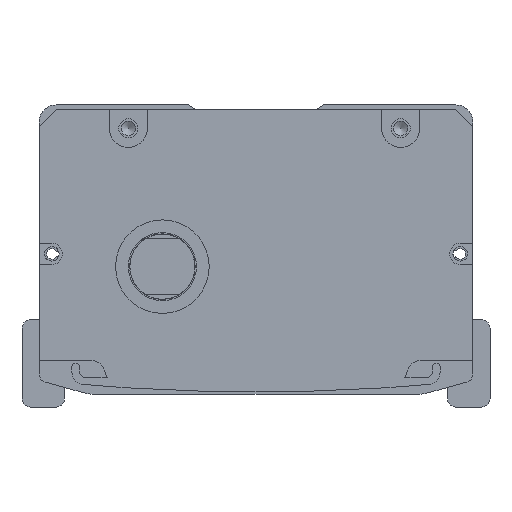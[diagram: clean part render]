
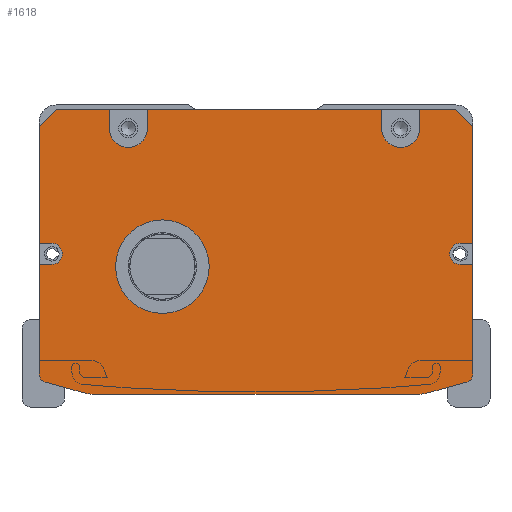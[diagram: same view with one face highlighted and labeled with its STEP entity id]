
A CAD part, front view. The second image highlights one B-rep face of the part: STEP entity #1618.
In plain terms, the highlighted planar face has unit normal (0, -1, 0).
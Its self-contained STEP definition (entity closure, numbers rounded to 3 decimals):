
#974=FACE_BOUND('',#3064,.T.);
#975=FACE_BOUND('',#3065,.T.);
#1618=ADVANCED_FACE('',(#974,#975),#2219,.F.);
#2219=PLANE('',#11855);
#3064=EDGE_LOOP('',(#5417,#5418,#5419,#5420,#5421,#5422,#5423,#5424,#5425,
#5426,#5427,#5428,#5429,#5430,#5431,#5432,#5433,#5434,#5435,#5436,#5437,
#5438,#5439,#5440,#5441,#5442,#5443,#5444));
#3065=EDGE_LOOP('',(#5445));
#4019=CIRCLE('',#11846,4.5);
#4020=CIRCLE('',#11847,4.5);
#4021=CIRCLE('',#11848,2.5);
#4022=CIRCLE('',#11849,2.);
#4023=CIRCLE('',#11850,10.);
#4024=CIRCLE('',#11851,10.);
#4025=CIRCLE('',#11852,2.);
#4026=CIRCLE('',#11853,2.5);
#4027=CIRCLE('',#11854,11.);
#5417=ORIENTED_EDGE('',*,*,#8746,.T.);
#5418=ORIENTED_EDGE('',*,*,#9162,.T.);
#5419=ORIENTED_EDGE('',*,*,#9163,.T.);
#5420=ORIENTED_EDGE('',*,*,#9164,.F.);
#5421=ORIENTED_EDGE('',*,*,#9165,.T.);
#5422=ORIENTED_EDGE('',*,*,#9166,.F.);
#5423=ORIENTED_EDGE('',*,*,#9167,.T.);
#5424=ORIENTED_EDGE('',*,*,#9168,.F.);
#5425=ORIENTED_EDGE('',*,*,#9169,.T.);
#5426=ORIENTED_EDGE('',*,*,#9170,.F.);
#5427=ORIENTED_EDGE('',*,*,#9171,.T.);
#5428=ORIENTED_EDGE('',*,*,#9172,.T.);
#5429=ORIENTED_EDGE('',*,*,#8778,.T.);
#5430=ORIENTED_EDGE('',*,*,#9173,.T.);
#5431=ORIENTED_EDGE('',*,*,#9174,.T.);
#5432=ORIENTED_EDGE('',*,*,#9175,.T.);
#5433=ORIENTED_EDGE('',*,*,#8774,.T.);
#5434=ORIENTED_EDGE('',*,*,#9176,.T.);
#5435=ORIENTED_EDGE('',*,*,#9177,.T.);
#5436=ORIENTED_EDGE('',*,*,#9178,.T.);
#5437=ORIENTED_EDGE('',*,*,#9179,.T.);
#5438=ORIENTED_EDGE('',*,*,#9180,.T.);
#5439=ORIENTED_EDGE('',*,*,#9181,.T.);
#5440=ORIENTED_EDGE('',*,*,#9182,.T.);
#5441=ORIENTED_EDGE('',*,*,#8750,.T.);
#5442=ORIENTED_EDGE('',*,*,#9183,.T.);
#5443=ORIENTED_EDGE('',*,*,#9184,.T.);
#5444=ORIENTED_EDGE('',*,*,#9185,.T.);
#5445=ORIENTED_EDGE('',*,*,#9186,.T.);
#7622=VERTEX_POINT('',#16324);
#7623=VERTEX_POINT('',#16326);
#7626=VERTEX_POINT('',#16332);
#7627=VERTEX_POINT('',#16334);
#7648=VERTEX_POINT('',#16379);
#7649=VERTEX_POINT('',#16381);
#7652=VERTEX_POINT('',#16387);
#7653=VERTEX_POINT('',#16389);
#7916=VERTEX_POINT('',#17182);
#7917=VERTEX_POINT('',#17184);
#7918=VERTEX_POINT('',#17186);
#7919=VERTEX_POINT('',#17188);
#7920=VERTEX_POINT('',#17190);
#7921=VERTEX_POINT('',#17192);
#7922=VERTEX_POINT('',#17194);
#7923=VERTEX_POINT('',#17196);
#7924=VERTEX_POINT('',#17198);
#7925=VERTEX_POINT('',#17200);
#7926=VERTEX_POINT('',#17203);
#7927=VERTEX_POINT('',#17205);
#7928=VERTEX_POINT('',#17208);
#7929=VERTEX_POINT('',#17210);
#7930=VERTEX_POINT('',#17212);
#7931=VERTEX_POINT('',#17214);
#7932=VERTEX_POINT('',#17216);
#7933=VERTEX_POINT('',#17218);
#7934=VERTEX_POINT('',#17221);
#7935=VERTEX_POINT('',#17223);
#7936=VERTEX_POINT('',#17226);
#8746=EDGE_CURVE('',#7623,#7622,#10189,.T.);
#8750=EDGE_CURVE('',#7627,#7626,#10193,.T.);
#8774=EDGE_CURVE('',#7649,#7648,#10217,.T.);
#8778=EDGE_CURVE('',#7653,#7652,#10221,.T.);
#9162=EDGE_CURVE('',#7622,#7916,#10454,.T.);
#9163=EDGE_CURVE('',#7916,#7917,#10455,.T.);
#9164=EDGE_CURVE('',#7918,#7917,#10456,.T.);
#9165=EDGE_CURVE('',#7918,#7919,#4019,.T.);
#9166=EDGE_CURVE('',#7920,#7919,#10457,.T.);
#9167=EDGE_CURVE('',#7920,#7921,#10458,.T.);
#9168=EDGE_CURVE('',#7922,#7921,#10459,.T.);
#9169=EDGE_CURVE('',#7922,#7923,#4020,.T.);
#9170=EDGE_CURVE('',#7924,#7923,#10460,.T.);
#9171=EDGE_CURVE('',#7924,#7925,#10461,.T.);
#9172=EDGE_CURVE('',#7925,#7653,#10462,.T.);
#9173=EDGE_CURVE('',#7652,#7926,#10463,.T.);
#9174=EDGE_CURVE('',#7926,#7927,#4021,.T.);
#9175=EDGE_CURVE('',#7927,#7649,#10464,.T.);
#9176=EDGE_CURVE('',#7648,#7928,#4022,.T.);
#9177=EDGE_CURVE('',#7928,#7929,#10465,.T.);
#9178=EDGE_CURVE('',#7929,#7930,#4023,.T.);
#9179=EDGE_CURVE('',#7930,#7931,#10466,.T.);
#9180=EDGE_CURVE('',#7931,#7932,#4024,.T.);
#9181=EDGE_CURVE('',#7932,#7933,#10467,.T.);
#9182=EDGE_CURVE('',#7933,#7627,#4025,.T.);
#9183=EDGE_CURVE('',#7626,#7934,#10468,.T.);
#9184=EDGE_CURVE('',#7934,#7935,#4026,.T.);
#9185=EDGE_CURVE('',#7935,#7623,#10469,.T.);
#9186=EDGE_CURVE('',#7936,#7936,#4027,.T.);
#10189=LINE('',#16325,#10842);
#10193=LINE('',#16333,#10846);
#10217=LINE('',#16380,#10870);
#10221=LINE('',#16388,#10874);
#10454=LINE('',#17181,#11107);
#10455=LINE('',#17183,#11108);
#10456=LINE('',#17185,#11109);
#10457=LINE('',#17189,#11110);
#10458=LINE('',#17191,#11111);
#10459=LINE('',#17193,#11112);
#10460=LINE('',#17197,#11113);
#10461=LINE('',#17199,#11114);
#10462=LINE('',#17201,#11115);
#10463=LINE('',#17202,#11116);
#10464=LINE('',#17206,#11117);
#10465=LINE('',#17209,#11118);
#10466=LINE('',#17213,#11119);
#10467=LINE('',#17217,#11120);
#10468=LINE('',#17220,#11121);
#10469=LINE('',#17224,#11122);
#10842=VECTOR('',#13034,1.);
#10846=VECTOR('',#13038,1.);
#10870=VECTOR('',#13064,1.);
#10874=VECTOR('',#13068,1.);
#11107=VECTOR('',#13895,1.);
#11108=VECTOR('',#13896,1.);
#11109=VECTOR('',#13897,1.);
#11110=VECTOR('',#13900,1.);
#11111=VECTOR('',#13901,1.);
#11112=VECTOR('',#13902,1.);
#11113=VECTOR('',#13905,1.);
#11114=VECTOR('',#13906,1.);
#11115=VECTOR('',#13907,1.);
#11116=VECTOR('',#13908,1.);
#11117=VECTOR('',#13911,1.);
#11118=VECTOR('',#13914,1.);
#11119=VECTOR('',#13917,1.);
#11120=VECTOR('',#13920,1.);
#11121=VECTOR('',#13923,1.);
#11122=VECTOR('',#13926,1.);
#11846=AXIS2_PLACEMENT_3D('',#17187,#13898,#13899);
#11847=AXIS2_PLACEMENT_3D('',#17195,#13903,#13904);
#11848=AXIS2_PLACEMENT_3D('',#17204,#13909,#13910);
#11849=AXIS2_PLACEMENT_3D('',#17207,#13912,#13913);
#11850=AXIS2_PLACEMENT_3D('',#17211,#13915,#13916);
#11851=AXIS2_PLACEMENT_3D('',#17215,#13918,#13919);
#11852=AXIS2_PLACEMENT_3D('',#17219,#13921,#13922);
#11853=AXIS2_PLACEMENT_3D('',#17222,#13924,#13925);
#11854=AXIS2_PLACEMENT_3D('',#17225,#13927,#13928);
#11855=AXIS2_PLACEMENT_3D('',#17227,#13929,#13930);
#13034=DIRECTION('',(0.,0.,1.));
#13038=DIRECTION('',(0.,0.,1.));
#13064=DIRECTION('',(0.,0.,-1.));
#13068=DIRECTION('',(0.,0.,-1.));
#13895=DIRECTION('',(-0.707,0.,0.707));
#13896=DIRECTION('',(-1.,0.,0.));
#13897=DIRECTION('',(0.,0.,1.));
#13898=DIRECTION('',(0.,1.,0.));
#13899=DIRECTION('',(0.,0.,1.));
#13900=DIRECTION('',(0.,0.,-1.));
#13901=DIRECTION('',(-1.,0.,0.));
#13902=DIRECTION('',(0.,0.,1.));
#13903=DIRECTION('',(0.,1.,0.));
#13904=DIRECTION('',(0.,0.,1.));
#13905=DIRECTION('',(0.,0.,-1.));
#13906=DIRECTION('',(-1.,0.,0.));
#13907=DIRECTION('',(-0.707,0.,-0.707));
#13908=DIRECTION('',(1.,0.,0.));
#13909=DIRECTION('',(0.,1.,0.));
#13910=DIRECTION('',(0.,0.,1.));
#13911=DIRECTION('',(-1.,0.,0.));
#13912=DIRECTION('',(0.,-1.,0.));
#13913=DIRECTION('',(0.,0.,1.));
#13914=DIRECTION('',(0.963,0.,-0.269));
#13915=DIRECTION('',(0.,-1.,0.));
#13916=DIRECTION('',(0.,0.,1.));
#13917=DIRECTION('',(1.,0.,0.));
#13918=DIRECTION('',(0.,-1.,0.));
#13919=DIRECTION('',(0.,0.,-1.));
#13920=DIRECTION('',(0.963,0.,0.269));
#13921=DIRECTION('',(0.,-1.,0.));
#13922=DIRECTION('',(0.,0.,-1.));
#13923=DIRECTION('',(-1.,0.,0.));
#13924=DIRECTION('',(0.,1.,0.));
#13925=DIRECTION('',(0.,0.,1.));
#13926=DIRECTION('',(1.,0.,0.));
#13927=DIRECTION('',(0.,1.,0.));
#13928=DIRECTION('',(0.,0.,1.));
#13929=DIRECTION('',(0.,1.,0.));
#13930=DIRECTION('',(1.,0.,0.));
#16324=CARTESIAN_POINT('',(47.808,-407.5,-5.));
#16325=CARTESIAN_POINT('',(47.808,-407.5,-1.));
#16326=CARTESIAN_POINT('',(47.808,-407.5,-32.5));
#16332=CARTESIAN_POINT('',(47.808,-407.5,-37.5));
#16333=CARTESIAN_POINT('',(47.808,-407.5,-1.));
#16334=CARTESIAN_POINT('',(47.808,-407.5,-63.212));
#16379=CARTESIAN_POINT('',(-54.192,-407.5,-63.212));
#16380=CARTESIAN_POINT('',(-54.192,-407.5,-62.));
#16381=CARTESIAN_POINT('',(-54.192,-407.5,-37.5));
#16387=CARTESIAN_POINT('',(-54.192,-407.5,-32.5));
#16388=CARTESIAN_POINT('',(-54.192,-407.5,-62.));
#16389=CARTESIAN_POINT('',(-54.192,-407.5,-5.));
#17181=CARTESIAN_POINT('',(43.808,-407.5,-1.));
#17182=CARTESIAN_POINT('',(43.808,-407.5,-1.));
#17183=CARTESIAN_POINT('',(-3.192,-407.5,-1.));
#17184=CARTESIAN_POINT('',(35.308,-407.5,-1.));
#17185=CARTESIAN_POINT('',(35.308,-407.5,-1.));
#17186=CARTESIAN_POINT('',(35.308,-407.5,-5.5));
#17187=CARTESIAN_POINT('',(30.808,-407.5,-5.5));
#17188=CARTESIAN_POINT('',(26.308,-407.5,-5.5));
#17189=CARTESIAN_POINT('',(26.308,-407.5,-1.));
#17190=CARTESIAN_POINT('',(26.308,-407.5,-1.));
#17191=CARTESIAN_POINT('',(-54.192,-407.5,-1.));
#17192=CARTESIAN_POINT('',(-28.692,-407.5,-1.));
#17193=CARTESIAN_POINT('',(-28.692,-407.5,-3.5));
#17194=CARTESIAN_POINT('',(-28.692,-407.5,-5.5));
#17195=CARTESIAN_POINT('',(-33.192,-407.5,-5.5));
#17196=CARTESIAN_POINT('',(-37.692,-407.5,-5.5));
#17197=CARTESIAN_POINT('',(-37.692,-407.5,-1.));
#17198=CARTESIAN_POINT('',(-37.692,-407.5,-1.));
#17199=CARTESIAN_POINT('',(-54.192,-407.5,-1.));
#17200=CARTESIAN_POINT('',(-50.192,-407.5,-1.));
#17201=CARTESIAN_POINT('',(-54.192,-407.5,-5.));
#17202=CARTESIAN_POINT('',(-3.192,-407.5,-32.5));
#17203=CARTESIAN_POINT('',(-51.192,-407.5,-32.5));
#17204=CARTESIAN_POINT('',(-51.192,-407.5,-35.));
#17205=CARTESIAN_POINT('',(-51.192,-407.5,-37.5));
#17206=CARTESIAN_POINT('',(-3.192,-407.5,-37.5));
#17207=CARTESIAN_POINT('',(-52.192,-407.5,-63.212));
#17208=CARTESIAN_POINT('',(-52.731,-407.5,-65.138));
#17209=CARTESIAN_POINT('',(-55.807,-407.5,-64.279));
#17210=CARTESIAN_POINT('',(-43.809,-407.5,-67.631));
#17211=CARTESIAN_POINT('',(-41.118,-407.5,-58.));
#17212=CARTESIAN_POINT('',(-41.118,-407.5,-68.));
#17213=CARTESIAN_POINT('',(-54.692,-407.5,-68.));
#17214=CARTESIAN_POINT('',(34.733,-407.5,-68.));
#17215=CARTESIAN_POINT('',(34.733,-407.5,-58.));
#17216=CARTESIAN_POINT('',(37.424,-407.5,-67.631));
#17217=CARTESIAN_POINT('',(49.422,-407.5,-64.279));
#17218=CARTESIAN_POINT('',(46.346,-407.5,-65.138));
#17219=CARTESIAN_POINT('',(45.808,-407.5,-63.212));
#17220=CARTESIAN_POINT('',(-3.192,-407.5,-37.5));
#17221=CARTESIAN_POINT('',(44.808,-407.5,-37.5));
#17222=CARTESIAN_POINT('',(44.808,-407.5,-35.));
#17223=CARTESIAN_POINT('',(44.808,-407.5,-32.5));
#17224=CARTESIAN_POINT('',(-3.192,-407.5,-32.5));
#17225=CARTESIAN_POINT('',(-25.192,-407.5,-38.));
#17226=CARTESIAN_POINT('',(-25.192,-407.5,-27.));
#17227=CARTESIAN_POINT('',(-3.192,-407.5,-1.));
